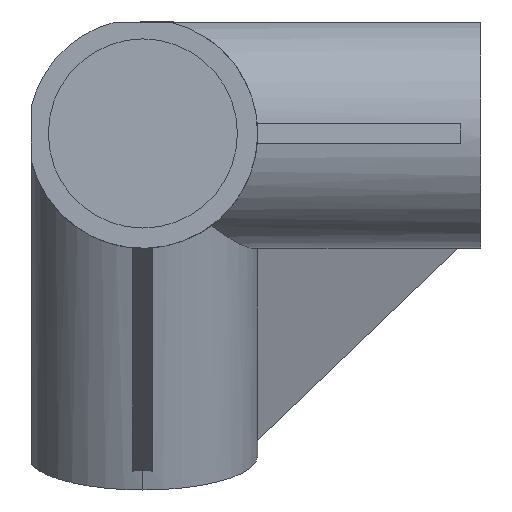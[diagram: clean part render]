
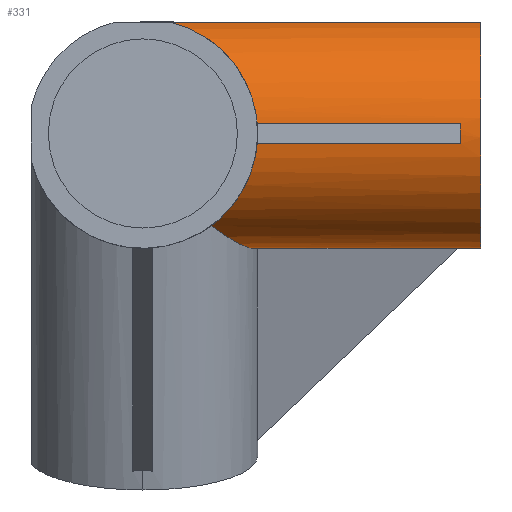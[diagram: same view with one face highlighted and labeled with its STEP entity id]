
A CAD part, front view. The second image highlights one B-rep face of the part: STEP entity #331.
In plain terms, the highlighted cylindrical face has radius 17 mm (diameter 34 mm), a partial arc.
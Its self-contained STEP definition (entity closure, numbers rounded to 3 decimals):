
#7 =( BOUNDED_CURVE ( )  B_SPLINE_CURVE ( 3, ( #853, #379, #765, #72 ),
 .UNSPECIFIED., .F., .F. ) 
 B_SPLINE_CURVE_WITH_KNOTS ( ( 4, 4 ),
 ( 1.814, 3.053 ),
 .UNSPECIFIED. ) 
 CURVE ( )  GEOMETRIC_REPRESENTATION_ITEM ( )  RATIONAL_B_SPLINE_CURVE ( ( 1., 0.876, 0.876, 1. ) ) 
 REPRESENTATION_ITEM ( '' )  );
#16 = EDGE_CURVE ( 'NONE', #697, #83, #836, .T. ) ;
#31 = CARTESIAN_POINT ( 'NONE',  ( 16.498, -1.316, -17.654 ) ) ;
#36 = CARTESIAN_POINT ( 'NONE',  ( 10.112, -10.112, -13.666 ) ) ;
#51 = ORIENTED_EDGE ( 'NONE', *, *, #583, .T. ) ;
#56 = ORIENTED_EDGE ( 'NONE', *, *, #939, .T. ) ;
#63 = LINE ( 'NONE', #280, #953 ) ;
#67 = CARTESIAN_POINT ( 'NONE',  ( 46.978, -17.022, 0.501 ) ) ;
#70 = EDGE_CURVE ( 'NONE', #170, #186, #888, .T. ) ;
#72 = CARTESIAN_POINT ( 'NONE',  ( 16.934, -16.934, 1.5 ) ) ;
#73 = VERTEX_POINT ( 'NONE', #300 ) ;
#75 = CIRCLE ( 'NONE', #810, 17. ) ;
#83 = VERTEX_POINT ( 'NONE', #351 ) ;
#86 = CARTESIAN_POINT ( 'NONE',  ( 50., -4.093, 16.5 ) ) ;
#94 = DIRECTION ( 'NONE',  ( 0., 0., 1. ) ) ;
#98 =( BOUNDED_CURVE ( )  B_SPLINE_CURVE ( 3, ( #306, #244, #387, #851 ),
 .UNSPECIFIED., .F., .F. ) 
 B_SPLINE_CURVE_WITH_KNOTS ( ( 4, 4 ),
 ( 3.23, 4.075 ),
 .UNSPECIFIED. ) 
 CURVE ( )  GEOMETRIC_REPRESENTATION_ITEM ( )  RATIONAL_B_SPLINE_CURVE ( ( 1., 0.941, 0.941, 1. ) ) 
 REPRESENTATION_ITEM ( '' )  );
#105 = EDGE_CURVE ( 'NONE', #980, #336, #619, .T. ) ;
#111 = DIRECTION ( 'NONE',  ( -1., 0., 0. ) ) ;
#114 = CARTESIAN_POINT ( 'NONE',  ( 9.274, 18.969, -3.899 ) ) ;
#124 = VERTEX_POINT ( 'NONE', #466 ) ;
#135 = DIRECTION ( 'NONE',  ( -1., 0., 0. ) ) ;
#138 = DIRECTION ( 'NONE',  ( 1., 0., 0. ) ) ;
#161 = CARTESIAN_POINT ( 'NONE',  ( 47.066, 6.385, -15.755 ) ) ;
#169 = DIRECTION ( 'NONE',  ( -1., 0., 0. ) ) ;
#170 = VERTEX_POINT ( 'NONE', #161 ) ;
#171 = CARTESIAN_POINT ( 'NONE',  ( 50., -16.934, -1.5 ) ) ;
#184 = CARTESIAN_POINT ( 'NONE',  ( 10.112, -10.112, -13.666 ) ) ;
#186 = VERTEX_POINT ( 'NONE', #322 ) ;
#201 = CARTESIAN_POINT ( 'NONE',  ( 50., 4.093, 16.5 ) ) ;
#204 = DIRECTION ( 'NONE',  ( 0., 0., -1. ) ) ;
#212 = LINE ( 'NONE', #433, #894 ) ;
#215 = ORIENTED_EDGE ( 'NONE', *, *, #906, .T. ) ;
#222 = CARTESIAN_POINT ( 'NONE',  ( 46.978, 5.456, -16.132 ) ) ;
#244 = CARTESIAN_POINT ( 'NONE',  ( 16.498, -16.498, -6.42 ) ) ;
#248 = CARTESIAN_POINT ( 'NONE',  ( 16.934, 6.385, -15.755 ) ) ;
#253 = AXIS2_PLACEMENT_3D ( 'NONE', #646, #169, #94 ) ;
#255 = VERTEX_POINT ( 'NONE', #184 ) ;
#261 = ORIENTED_EDGE ( 'NONE', *, *, #105, .F. ) ;
#264 = CARTESIAN_POINT ( 'NONE',  ( 14.082, -6.142, -16.603 ) ) ;
#277 = CARTESIAN_POINT ( 'NONE',  ( 0., 16.257, 4.97 ) ) ;
#280 = CARTESIAN_POINT ( 'NONE',  ( 50., -16.934, 1.5 ) ) ;
#287 = CARTESIAN_POINT ( 'NONE',  ( 0., 4.093, 16.5 ) ) ;
#293 = EDGE_LOOP ( 'NONE', ( #297, #593, #513, #918, #215, #628, #261, #480, #425, #56, #341, #932, #51, #526 ) ) ;
#297 = ORIENTED_EDGE ( 'NONE', *, *, #299, .F. ) ;
#299 = EDGE_CURVE ( 'NONE', #186, #124, #484, .T. ) ;
#300 = CARTESIAN_POINT ( 'NONE',  ( 4.093, -4.093, 16.5 ) ) ;
#306 = CARTESIAN_POINT ( 'NONE',  ( 16.934, -16.934, -1.5 ) ) ;
#310 = EDGE_CURVE ( 'NONE', #255, #124, #479, .T. ) ;
#319 = CARTESIAN_POINT ( 'NONE',  ( 16.934, -16.934, 1.5 ) ) ;
#322 = CARTESIAN_POINT ( 'NONE',  ( 47.066, 3.516, -16.632 ) ) ;
#331 = ADVANCED_FACE ( 'NONE', ( #346 ), #718, .T. ) ;
#333 = CARTESIAN_POINT ( 'NONE',  ( 47.066, -16.934, -1.5 ) ) ;
#336 = VERTEX_POINT ( 'NONE', #201 ) ;
#341 = ORIENTED_EDGE ( 'NONE', *, *, #16, .F. ) ;
#346 = FACE_OUTER_BOUND ( 'NONE', #293, .T. ) ;
#350 = CARTESIAN_POINT ( 'NONE',  ( 16.934, 6.385, -15.755 ) ) ;
#351 = CARTESIAN_POINT ( 'NONE',  ( 47.066, -16.934, 1.5 ) ) ;
#355 = CARTESIAN_POINT ( 'NONE',  ( 47.066, -16.934, -1.5 ) ) ;
#356 = EDGE_CURVE ( 'NONE', #336, #885, #212, .T. ) ;
#366 = CARTESIAN_POINT ( 'NONE',  ( 46.978, -17.022, -0.501 ) ) ;
#368 = LINE ( 'NONE', #891, #710 ) ;
#379 = CARTESIAN_POINT ( 'NONE',  ( 11.385, -11.385, 14.691 ) ) ;
#387 = CARTESIAN_POINT ( 'NONE',  ( 14.082, -14.082, -10.728 ) ) ;
#418 = EDGE_CURVE ( 'NONE', #642, #834, #587, .T. ) ;
#425 = ORIENTED_EDGE ( 'NONE', *, *, #968, .T. ) ;
#433 = CARTESIAN_POINT ( 'NONE',  ( 50., 4.093, 16.5 ) ) ;
#441 = VERTEX_POINT ( 'NONE', #483 ) ;
#460 = DIRECTION ( 'NONE',  ( 1., 0., 0. ) ) ;
#463 = AXIS2_PLACEMENT_3D ( 'NONE', #934, #460, #844 ) ;
#466 = CARTESIAN_POINT ( 'NONE',  ( 16.934, 3.516, -16.632 ) ) ;
#479 =( BOUNDED_CURVE ( )  B_SPLINE_CURVE ( 3, ( #36, #264, #31, #781 ),
 .UNSPECIFIED., .F., .F. ) 
 B_SPLINE_CURVE_WITH_KNOTS ( ( 4, 4 ),
 ( 2.208, 3.053 ),
 .UNSPECIFIED. ) 
 CURVE ( )  GEOMETRIC_REPRESENTATION_ITEM ( )  RATIONAL_B_SPLINE_CURVE ( ( 1., 0.941, 0.941, 1. ) ) 
 REPRESENTATION_ITEM ( '' )  );
#480 = ORIENTED_EDGE ( 'NONE', *, *, #817, .F. ) ;
#483 = CARTESIAN_POINT ( 'NONE',  ( 16.934, -16.934, -1.5 ) ) ;
#484 = LINE ( 'NONE', #786, #604 ) ;
#513 = ORIENTED_EDGE ( 'NONE', *, *, #873, .T. ) ;
#520 = DIRECTION ( 'NONE',  ( 1., 0., 0. ) ) ;
#526 = ORIENTED_EDGE ( 'NONE', *, *, #310, .T. ) ;
#583 = EDGE_CURVE ( 'NONE', #441, #255, #98, .T. ) ;
#587 =( BOUNDED_CURVE ( )  B_SPLINE_CURVE ( 3, ( #350, #796, #114, #862 ),
 .UNSPECIFIED., .F., .T. ) 
 B_SPLINE_CURVE_WITH_KNOTS ( ( 4, 4 ),
 ( 3.23, 4.712 ),
 .UNSPECIFIED. ) 
 CURVE ( )  GEOMETRIC_REPRESENTATION_ITEM ( )  RATIONAL_B_SPLINE_CURVE ( ( 1., 0.825, 0.825, 1. ) ) 
 REPRESENTATION_ITEM ( '' )  );
#593 = ORIENTED_EDGE ( 'NONE', *, *, #70, .F. ) ;
#603 = CARTESIAN_POINT ( 'NONE',  ( 47.066, 6.385, -15.755 ) ) ;
#604 = VECTOR ( 'NONE', #111, 1000. ) ;
#617 = VECTOR ( 'NONE', #979, 1000. ) ;
#619 = CIRCLE ( 'NONE', #463, 17. ) ;
#628 = ORIENTED_EDGE ( 'NONE', *, *, #356, .F. ) ;
#642 = VERTEX_POINT ( 'NONE', #248 ) ;
#643 = LINE ( 'NONE', #171, #924 ) ;
#646 = CARTESIAN_POINT ( 'NONE',  ( 50., 0., 0. ) ) ;
#657 = LINE ( 'NONE', #673, #617 ) ;
#673 = CARTESIAN_POINT ( 'NONE',  ( 50., 6.385, -15.755 ) ) ;
#697 = VERTEX_POINT ( 'NONE', #333 ) ;
#710 = VECTOR ( 'NONE', #520, 1000. ) ;
#711 = DIRECTION ( 'NONE',  ( 1., 0., 0. ) ) ;
#718 = CYLINDRICAL_SURFACE ( 'NONE', #253, 17. ) ;
#729 = CARTESIAN_POINT ( 'NONE',  ( 47.066, 3.516, -16.632 ) ) ;
#749 = DIRECTION ( 'NONE',  ( 1., 0., 0. ) ) ;
#765 = CARTESIAN_POINT ( 'NONE',  ( 16.271, -16.271, 8.984 ) ) ;
#781 = CARTESIAN_POINT ( 'NONE',  ( 16.934, 3.516, -16.632 ) ) ;
#786 = CARTESIAN_POINT ( 'NONE',  ( 50., 3.516, -16.632 ) ) ;
#789 = EDGE_CURVE ( 'NONE', #441, #697, #643, .T. ) ;
#796 = CARTESIAN_POINT ( 'NONE',  ( 16.115, 14.981, -12.272 ) ) ;
#808 = CARTESIAN_POINT ( 'NONE',  ( 46.978, 4.497, -16.425 ) ) ;
#810 = AXIS2_PLACEMENT_3D ( 'NONE', #824, #749, #204 ) ;
#817 = EDGE_CURVE ( 'NONE', #73, #980, #368, .T. ) ;
#824 = CARTESIAN_POINT ( 'NONE',  ( 0., 0., 0. ) ) ;
#834 = VERTEX_POINT ( 'NONE', #277 ) ;
#836 =( BOUNDED_CURVE ( )  B_SPLINE_CURVE ( 3, ( #355, #366, #67, #889 ),
 .UNSPECIFIED., .F., .T. ) 
 B_SPLINE_CURVE_WITH_KNOTS ( ( 4, 4 ),
 ( 6.195, 6.372 ),
 .UNSPECIFIED. ) 
 CURVE ( )  GEOMETRIC_REPRESENTATION_ITEM ( )  RATIONAL_B_SPLINE_CURVE ( ( 1., 0.997, 0.997, 1. ) ) 
 REPRESENTATION_ITEM ( '' )  );
#844 = DIRECTION ( 'NONE',  ( 0., 0., -1. ) ) ;
#851 = CARTESIAN_POINT ( 'NONE',  ( 10.112, -10.112, -13.666 ) ) ;
#853 = CARTESIAN_POINT ( 'NONE',  ( 4.093, -4.093, 16.5 ) ) ;
#862 = CARTESIAN_POINT ( 'NONE',  ( 0., 16.257, 4.97 ) ) ;
#873 = EDGE_CURVE ( 'NONE', #170, #642, #657, .T. ) ;
#885 = VERTEX_POINT ( 'NONE', #287 ) ;
#888 =( BOUNDED_CURVE ( )  B_SPLINE_CURVE ( 3, ( #603, #222, #808, #729 ),
 .UNSPECIFIED., .F., .F. ) 
 B_SPLINE_CURVE_WITH_KNOTS ( ( 4, 4 ),
 ( 6.195, 6.372 ),
 .UNSPECIFIED. ) 
 CURVE ( )  GEOMETRIC_REPRESENTATION_ITEM ( )  RATIONAL_B_SPLINE_CURVE ( ( 1., 0.997, 0.997, 1. ) ) 
 REPRESENTATION_ITEM ( '' )  );
#889 = CARTESIAN_POINT ( 'NONE',  ( 47.066, -16.934, 1.5 ) ) ;
#891 = CARTESIAN_POINT ( 'NONE',  ( 50., -4.093, 16.5 ) ) ;
#894 = VECTOR ( 'NONE', #135, 1000. ) ;
#906 = EDGE_CURVE ( 'NONE', #834, #885, #75, .T. ) ;
#918 = ORIENTED_EDGE ( 'NONE', *, *, #418, .T. ) ;
#924 = VECTOR ( 'NONE', #711, 1000. ) ;
#932 = ORIENTED_EDGE ( 'NONE', *, *, #789, .F. ) ;
#934 = CARTESIAN_POINT ( 'NONE',  ( 50., 0., 0. ) ) ;
#939 = EDGE_CURVE ( 'NONE', #976, #83, #63, .T. ) ;
#953 = VECTOR ( 'NONE', #138, 1000. ) ;
#968 = EDGE_CURVE ( 'NONE', #73, #976, #7, .T. ) ;
#976 = VERTEX_POINT ( 'NONE', #319 ) ;
#979 = DIRECTION ( 'NONE',  ( -1., 0., 0. ) ) ;
#980 = VERTEX_POINT ( 'NONE', #86 ) ;
